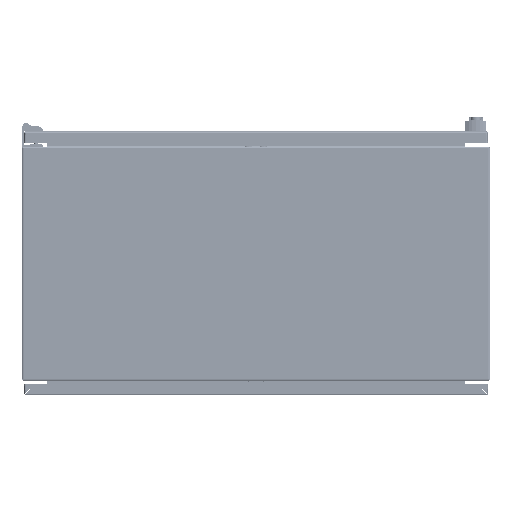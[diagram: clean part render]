
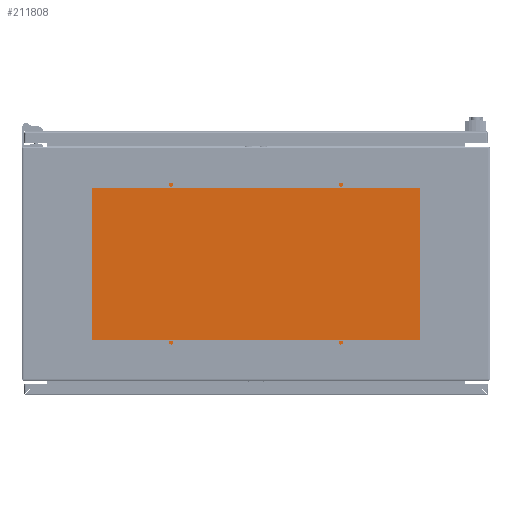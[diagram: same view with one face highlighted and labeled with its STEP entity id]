
A CAD part, front view. The second image highlights one B-rep face of the part: STEP entity #211808.
In plain terms, the highlighted planar face has unit normal (0, -1, 0).
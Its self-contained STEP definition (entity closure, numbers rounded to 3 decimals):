
#2944 = EDGE_CURVE ( 'NONE', #315006, #303571, #155556, .T. ) ;
#5734 = DIRECTION ( 'NONE',  ( 1., 0., 0. ) ) ;
#5737 = DIRECTION ( 'NONE',  ( 0., -1., 0. ) ) ;
#5739 = CARTESIAN_POINT ( 'NONE',  ( 145., 2003., -135. ) ) ;
#5741 = AXIS2_PLACEMENT_3D ( 'NONE', #5739, #5737, #5734 ) ;
#5742 = CIRCLE ( 'NONE', #5741, 0.5 ) ;
#24911 = CARTESIAN_POINT ( 'NONE',  ( -310.536, 2003., 159.343 ) ) ;
#26282 = DIRECTION ( 'NONE',  ( 0.707, 0., 0.707 ) ) ;
#26284 = VECTOR ( 'NONE', #26282, 1000. ) ;
#26285 = CARTESIAN_POINT ( 'NONE',  ( -309.939, 2003., 159.939 ) ) ;
#26286 = LINE ( 'NONE', #26285, #26284 ) ;
#39628 = LINE ( 'NONE', #39816, #39815 ) ;
#39787 = DIRECTION ( 'NONE',  ( -0.707, 0., -0.707 ) ) ;
#39789 = VECTOR ( 'NONE', #39787, 1000. ) ;
#39790 = CARTESIAN_POINT ( 'NONE',  ( 309.939, 2003., -159.939 ) ) ;
#39792 = LINE ( 'NONE', #39790, #39789 ) ;
#39812 = DIRECTION ( 'NONE',  ( 1., 0., 0. ) ) ;
#39815 = VECTOR ( 'NONE', #39812, 1000. ) ;
#39816 = CARTESIAN_POINT ( 'NONE',  ( -314., 2003., -160.536 ) ) ;
#40415 = CARTESIAN_POINT ( 'NONE',  ( 309.343, 2003., -160.536 ) ) ;
#44375 = DIRECTION ( 'NONE',  ( -1., 0., 0. ) ) ;
#44377 = VECTOR ( 'NONE', #44375, 1000. ) ;
#44379 = CARTESIAN_POINT ( 'NONE',  ( -314., 2003., 160.536 ) ) ;
#44381 = LINE ( 'NONE', #44379, #44377 ) ;
#45961 = CARTESIAN_POINT ( 'NONE',  ( -309.343, 2003., 160.536 ) ) ;
#120611 = VERTEX_POINT ( 'NONE', #146600 ) ;
#120743 = VERTEX_POINT ( 'NONE', #147087 ) ;
#120756 = EDGE_CURVE ( 'NONE', #120743, #120759, #147068, .T. ) ;
#120759 = VERTEX_POINT ( 'NONE', #147059 ) ;
#120791 = EDGE_CURVE ( 'NONE', #120611, #120802, #147313, .T. ) ;
#120802 = VERTEX_POINT ( 'NONE', #147396 ) ;
#120875 = VERTEX_POINT ( 'NONE', #147668 ) ;
#121062 = EDGE_CURVE ( 'NONE', #120875, #121066, #148336, .T. ) ;
#121066 = VERTEX_POINT ( 'NONE', #148328 ) ;
#121165 = VERTEX_POINT ( 'NONE', #148606 ) ;
#121180 = EDGE_CURVE ( 'NONE', #121165, #121189, #148691, .T. ) ;
#121189 = VERTEX_POINT ( 'NONE', #148675 ) ;
#146600 = CARTESIAN_POINT ( 'NONE',  ( -145.5, 2003., 135. ) ) ;
#147059 = CARTESIAN_POINT ( 'NONE',  ( 145.5, 2003., 135. ) ) ;
#147062 = DIRECTION ( 'NONE',  ( 1., 0., 0. ) ) ;
#147063 = DIRECTION ( 'NONE',  ( 0., -1., 0. ) ) ;
#147065 = CARTESIAN_POINT ( 'NONE',  ( 145., 2003., 135. ) ) ;
#147066 = AXIS2_PLACEMENT_3D ( 'NONE', #147065, #147063, #147062 ) ;
#147068 = CIRCLE ( 'NONE', #147066, 0.5 ) ;
#147087 = CARTESIAN_POINT ( 'NONE',  ( 144.5, 2003., 135. ) ) ;
#147305 = DIRECTION ( 'NONE',  ( 1., 0., 0. ) ) ;
#147307 = DIRECTION ( 'NONE',  ( 0., -1., 0. ) ) ;
#147309 = CARTESIAN_POINT ( 'NONE',  ( -145., 2003., 135. ) ) ;
#147311 = AXIS2_PLACEMENT_3D ( 'NONE', #147309, #147307, #147305 ) ;
#147313 = CIRCLE ( 'NONE', #147311, 0.5 ) ;
#147396 = CARTESIAN_POINT ( 'NONE',  ( -144.5, 2003., 135. ) ) ;
#147668 = CARTESIAN_POINT ( 'NONE',  ( 144.5, 2003., -135. ) ) ;
#148328 = CARTESIAN_POINT ( 'NONE',  ( 145.5, 2003., -135. ) ) ;
#148330 = DIRECTION ( 'NONE',  ( 1., 0., 0. ) ) ;
#148331 = DIRECTION ( 'NONE',  ( 0., -1., 0. ) ) ;
#148332 = CARTESIAN_POINT ( 'NONE',  ( 145., 2003., -135. ) ) ;
#148334 = AXIS2_PLACEMENT_3D ( 'NONE', #148332, #148331, #148330 ) ;
#148336 = CIRCLE ( 'NONE', #148334, 0.5 ) ;
#148606 = CARTESIAN_POINT ( 'NONE',  ( -145.5, 2003., -135. ) ) ;
#148675 = CARTESIAN_POINT ( 'NONE',  ( -144.5, 2003., -135. ) ) ;
#148685 = DIRECTION ( 'NONE',  ( 1., 0., 0. ) ) ;
#148687 = DIRECTION ( 'NONE',  ( 0., -1., 0. ) ) ;
#148689 = CARTESIAN_POINT ( 'NONE',  ( -145., 2003., -135. ) ) ;
#148690 = AXIS2_PLACEMENT_3D ( 'NONE', #148689, #148687, #148685 ) ;
#148691 = CIRCLE ( 'NONE', #148690, 0.5 ) ;
#155547 = DIRECTION ( 'NONE',  ( 0., 0., -1. ) ) ;
#155549 = VECTOR ( 'NONE', #155547, 1000. ) ;
#155550 = CARTESIAN_POINT ( 'NONE',  ( -310.536, 2003., -164. ) ) ;
#155556 = LINE ( 'NONE', #155550, #155549 ) ;
#167904 = VERTEX_POINT ( 'NONE', #232834 ) ;
#168014 = ORIENTED_EDGE ( 'NONE', *, *, #320595, .T. ) ;
#169742 = EDGE_CURVE ( 'NONE', #170921, #167904, #232824, .T. ) ;
#170696 = ORIENTED_EDGE ( 'NONE', *, *, #169742, .T. ) ;
#170921 = VERTEX_POINT ( 'NONE', #232955 ) ;
#203776 = ORIENTED_EDGE ( 'NONE', *, *, #204915, .F. ) ;
#204462 = ORIENTED_EDGE ( 'NONE', *, *, #120756, .F. ) ;
#204561 = EDGE_LOOP ( 'NONE', ( #204563, #309553 ) ) ;
#204563 = ORIENTED_EDGE ( 'NONE', *, *, #310555, .F. ) ;
#204915 = EDGE_CURVE ( 'NONE', #120759, #120743, #238948, .T. ) ;
#206246 = EDGE_LOOP ( 'NONE', ( #203776, #204462 ) ) ;
#207920 = ORIENTED_EDGE ( 'NONE', *, *, #120791, .F. ) ;
#209188 = EDGE_CURVE ( 'NONE', #120802, #120611, #238923, .T. ) ;
#209830 = ORIENTED_EDGE ( 'NONE', *, *, #209188, .F. ) ;
#209908 = EDGE_LOOP ( 'NONE', ( #209830, #207920 ) ) ;
#211808 = ADVANCED_FACE ( 'NONE', ( #239008, #239006, #239004, #239003, #239001 ), #239084, .T. ) ;
#232802 = DIRECTION ( 'NONE',  ( -0.707, 0., 0.707 ) ) ;
#232804 = VECTOR ( 'NONE', #232802, 1000. ) ;
#232807 = CARTESIAN_POINT ( 'NONE',  ( 159.939, 2003., 309.939 ) ) ;
#232824 = LINE ( 'NONE', #232807, #232804 ) ;
#232834 = CARTESIAN_POINT ( 'NONE',  ( 309.343, 2003., 160.536 ) ) ;
#232955 = CARTESIAN_POINT ( 'NONE',  ( 310.536, 2003., 159.343 ) ) ;
#238923 = CIRCLE ( 'NONE', #239029, 0.5 ) ;
#238940 = DIRECTION ( 'NONE',  ( 1., 0., 0. ) ) ;
#238943 = DIRECTION ( 'NONE',  ( 0., -1., 0. ) ) ;
#238944 = CARTESIAN_POINT ( 'NONE',  ( 145., 2003., 135. ) ) ;
#238946 = AXIS2_PLACEMENT_3D ( 'NONE', #238944, #238943, #238940 ) ;
#238948 = CIRCLE ( 'NONE', #238946, 0.5 ) ;
#239001 = FACE_OUTER_BOUND ( 'NONE', #305739, .T. ) ;
#239003 = FACE_BOUND ( 'NONE', #308445, .T. ) ;
#239004 = FACE_BOUND ( 'NONE', #204561, .T. ) ;
#239006 = FACE_BOUND ( 'NONE', #206246, .T. ) ;
#239008 = FACE_BOUND ( 'NONE', #209908, .T. ) ;
#239025 = DIRECTION ( 'NONE',  ( 1., 0., 0. ) ) ;
#239026 = DIRECTION ( 'NONE',  ( 0., -1., 0. ) ) ;
#239028 = CARTESIAN_POINT ( 'NONE',  ( -145., 2003., 135. ) ) ;
#239029 = AXIS2_PLACEMENT_3D ( 'NONE', #239028, #239026, #239025 ) ;
#239076 = DIRECTION ( 'NONE',  ( 1., 0., 0. ) ) ;
#239078 = DIRECTION ( 'NONE',  ( 0., -1., 0. ) ) ;
#239079 = CARTESIAN_POINT ( 'NONE',  ( -314., 2003., -164. ) ) ;
#239080 = AXIS2_PLACEMENT_3D ( 'NONE', #239079, #239078, #239076 ) ;
#239084 = PLANE ( 'NONE',  #239080 ) ;
#239618 = CARTESIAN_POINT ( 'NONE',  ( 310.536, 2003., -159.343 ) ) ;
#240100 = DIRECTION ( 'NONE',  ( 0., 0., 1. ) ) ;
#240101 = VECTOR ( 'NONE', #240100, 1000. ) ;
#240102 = CARTESIAN_POINT ( 'NONE',  ( 310.536, 2003., -164. ) ) ;
#240103 = LINE ( 'NONE', #240102, #240101 ) ;
#245080 = ORIENTED_EDGE ( 'NONE', *, *, #255431, .T. ) ;
#245215 = VERTEX_POINT ( 'NONE', #239618 ) ;
#255431 = EDGE_CURVE ( 'NONE', #245215, #170921, #240103, .T. ) ;
#300465 = CARTESIAN_POINT ( 'NONE',  ( -309.343, 2003., -160.536 ) ) ;
#302028 = ORIENTED_EDGE ( 'NONE', *, *, #319423, .T. ) ;
#302708 = VERTEX_POINT ( 'NONE', #300465 ) ;
#303332 = CARTESIAN_POINT ( 'NONE',  ( -310.536, 2003., -159.343 ) ) ;
#303571 = VERTEX_POINT ( 'NONE', #303332 ) ;
#304223 = EDGE_CURVE ( 'NONE', #303571, #302708, #304863, .T. ) ;
#304857 = DIRECTION ( 'NONE',  ( 0.707, 0., -0.707 ) ) ;
#304860 = VECTOR ( 'NONE', #304857, 1000. ) ;
#304862 = CARTESIAN_POINT ( 'NONE',  ( -309.939, 2003., -159.939 ) ) ;
#304863 = LINE ( 'NONE', #304862, #304860 ) ;
#305054 = ORIENTED_EDGE ( 'NONE', *, *, #304223, .T. ) ;
#305739 = EDGE_LOOP ( 'NONE', ( #305054, #302028, #319422, #245080, #170696, #168014, #318508, #323525 ) ) ;
#306975 = ORIENTED_EDGE ( 'NONE', *, *, #121180, .F. ) ;
#307480 = EDGE_CURVE ( 'NONE', #121189, #121165, #318771, .T. ) ;
#307984 = ORIENTED_EDGE ( 'NONE', *, *, #307480, .F. ) ;
#308445 = EDGE_LOOP ( 'NONE', ( #307984, #306975 ) ) ;
#309553 = ORIENTED_EDGE ( 'NONE', *, *, #121062, .F. ) ;
#310555 = EDGE_CURVE ( 'NONE', #121066, #120875, #5742, .T. ) ;
#315006 = VERTEX_POINT ( 'NONE', #24911 ) ;
#315345 = EDGE_CURVE ( 'NONE', #315006, #320954, #26286, .T. ) ;
#318508 = ORIENTED_EDGE ( 'NONE', *, *, #315345, .F. ) ;
#318761 = DIRECTION ( 'NONE',  ( 1., 0., 0. ) ) ;
#318764 = DIRECTION ( 'NONE',  ( 0., -1., 0. ) ) ;
#318767 = CARTESIAN_POINT ( 'NONE',  ( -145., 2003., -135. ) ) ;
#318768 = AXIS2_PLACEMENT_3D ( 'NONE', #318767, #318764, #318761 ) ;
#318771 = CIRCLE ( 'NONE', #318768, 0.5 ) ;
#319422 = ORIENTED_EDGE ( 'NONE', *, *, #319432, .F. ) ;
#319423 = EDGE_CURVE ( 'NONE', #302708, #319601, #39628, .T. ) ;
#319432 = EDGE_CURVE ( 'NONE', #245215, #319601, #39792, .T. ) ;
#319601 = VERTEX_POINT ( 'NONE', #40415 ) ;
#320595 = EDGE_CURVE ( 'NONE', #167904, #320954, #44381, .T. ) ;
#320954 = VERTEX_POINT ( 'NONE', #45961 ) ;
#323525 = ORIENTED_EDGE ( 'NONE', *, *, #2944, .T. ) ;
